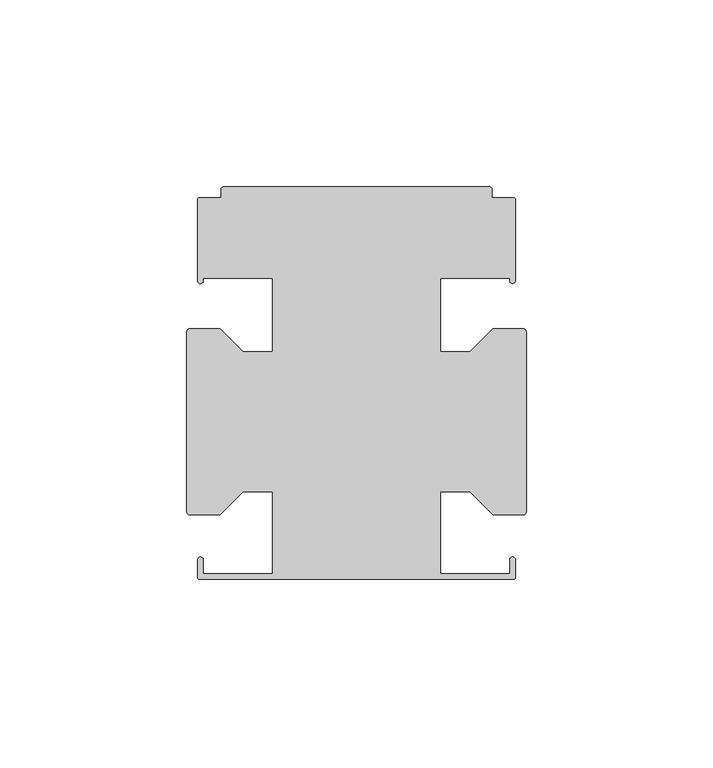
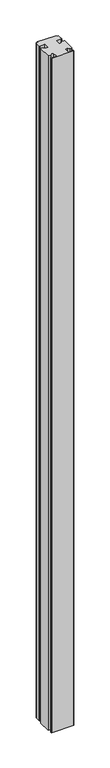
"""IFC4 building model written with IfcOpenShell, lengths in millimetres: member geometry, Прямоугольный импост : AMG-2-Профиль 105Х85 3 грани средний 2 стороны."""

from ifc_helpers import new_model, si_unit, point, frame, frame_2d, origin, place, context, project, spatial, polyline, circle_curve, trimmed, segment, composite_curve, outline, extrude, source, transform, mapped, element, save


def member_601b8065(model_context):
    return source(origin(), model_context, "Body", "SweptSolid", [
        extrude(outline(composite_curve([segment(polyline([(42.4976562, -36.8135237), (42.4976562, -41.5999999)]), True, "CONTINUOUS"), segment(trimmed(circle_curve(frame_2d((41.9976562, -41.5999999)), 0.5), [point((42.4976562, -41.5999999))], [point((41.9976562, -42.0999999))], False, "CARTESIAN"), True, "CONTINUOUS"), segment(polyline([(41.9976562, -42.0999999), (-42.0023438, -42.0999999)]), True, "CONTINUOUS"), segment(trimmed(circle_curve(frame_2d((-42.0023438, -41.5999999)), 0.5), [point((-42.0023438, -42.0999999))], [point((-42.5023438, -41.5999999))], False, "CARTESIAN"), True, "CONTINUOUS"), segment(polyline([(-42.5023438, -41.5999999), (-42.5023438, -36.8999999)]), True, "CONTINUOUS"), segment(trimmed(circle_curve(frame_2d((-41.7023438, -36.8999999)), 0.8), [point((-42.5023438, -36.8999999))], [point((-41.7023438, -36.0999999))], False, "CARTESIAN"), True, "CONTINUOUS"), segment(polyline([(-41.7023438, -36.0999999), (-41.0023438, -36.4566677), (-41.0023438, -40.5999999), (-22.5023438, -40.5999999), (-22.5023438, -18.6999999), (-30.3523438, -18.6999999), (-36.5023438, -24.8499999), (-44.6023438, -24.8499999)]), True, "CONTINUOUS"), segment(trimmed(circle_curve(frame_2d((-44.6023438, -24.0499999)), 0.8), [point((-44.6023438, -24.8499999))], [point((-45.4023438, -24.0499999))], False, "CARTESIAN"), True, "CONTINUOUS"), segment(polyline([(-45.4023438, -24.0499999), (-45.4023438, 24.0499999)]), True, "CONTINUOUS"), segment(trimmed(circle_curve(frame_2d((-44.6023438, 24.0499999)), 0.8), [point((-45.4023438, 24.0499999))], [point((-44.6023438, 24.8499999))], False, "CARTESIAN"), True, "CONTINUOUS"), segment(polyline([(-44.6023438, 24.8499999), (-36.5023438, 24.8499999), (-30.3523438, 18.6999999), (-22.5023438, 18.6999999), (-22.5023438, 38.4000001), (-41.0023438, 38.4000001), (-41.0023438, 37.2566679), (-41.7023438, 36.9000001)]), True, "CONTINUOUS"), segment(trimmed(circle_curve(frame_2d((-41.7023438, 37.7000001)), 0.8), [point((-41.7023438, 36.9000001))], [point((-42.5023438, 37.7000001))], False, "CARTESIAN"), True, "CONTINUOUS"), segment(polyline([(-42.5023438, 37.7000001), (-42.5023438, 59.4000001)]), True, "CONTINUOUS"), segment(trimmed(circle_curve(frame_2d((-42.0023438, 59.4000001)), 0.5), [point((-42.5023438, 59.4000001))], [point((-42.0023438, 59.9000001))], False, "CARTESIAN"), True, "CONTINUOUS"), segment(polyline([(-42.0023438, 59.9000001), (-36.2523438, 59.9000001), (-36.2523438, 62.3000001)]), True, "CONTINUOUS"), segment(trimmed(circle_curve(frame_2d((-35.7523438, 62.3000001)), 0.5), [point((-36.2523438, 62.3000001))], [point((-35.7523438, 62.8000001))], False, "CARTESIAN"), True, "CONTINUOUS"), segment(polyline([(-35.7523438, 62.8000001), (35.7476562, 62.8000001)]), True, "CONTINUOUS"), segment(trimmed(circle_curve(frame_2d((35.7476562, 62.3000001)), 0.5), [point((35.7476562, 62.8000001))], [point((36.2476562, 62.3000001))], False, "CARTESIAN"), True, "CONTINUOUS"), segment(polyline([(36.2476562, 62.3000001), (36.2476562, 59.9000001), (41.9976562, 59.9000001)]), True, "CONTINUOUS"), segment(trimmed(circle_curve(frame_2d((41.9976562, 59.4000001)), 0.5), [point((41.9976562, 59.9000001))], [point((42.4976562, 59.4000001))], False, "CARTESIAN"), True, "CONTINUOUS"), segment(polyline([(42.4976562, 59.4000001), (42.4976562, 37.7000001)]), True, "CONTINUOUS"), segment(trimmed(circle_curve(frame_2d((41.7023438, 37.7864763)), 0.8), [point((42.4976562, 37.7000001))], [point((41.7023438, 36.9864763))], False, "CARTESIAN"), True, "CONTINUOUS"), segment(polyline([(41.7023438, 36.9864763), (41.0023438, 37.3431441), (41.0023438, 38.4000001), (22.5023438, 38.4000001), (22.5023438, 18.6999999), (30.3523438, 18.6999999), (36.5023438, 24.8499999), (44.5976562, 24.8499999)]), True, "CONTINUOUS"), segment(trimmed(circle_curve(frame_2d((44.5976562, 24.0499999)), 0.8), [point((44.5976562, 24.8499999))], [point((45.3976562, 24.0499999))], False, "CARTESIAN"), True, "CONTINUOUS"), segment(polyline([(45.3976562, 24.0499999), (45.3976562, -24.0499999)]), True, "CONTINUOUS"), segment(trimmed(circle_curve(frame_2d((44.5976562, -24.0499999)), 0.8), [point((45.3976562, -24.0499999))], [point((44.5976562, -24.8499999))], False, "CARTESIAN"), True, "CONTINUOUS"), segment(polyline([(44.5976562, -24.8499999), (36.5023438, -24.8499999), (30.3523438, -18.6999999), (22.5023438, -18.6999999), (22.5023438, -40.5999999), (41.0023438, -40.5999999), (41.0023438, -36.4566677), (41.7023438, -36.0999999)]), True, "CONTINUOUS"), segment(trimmed(circle_curve(frame_2d((41.7023438, -36.8999999)), 0.8), [point((41.7023438, -36.0999999))], [point((42.4976562, -36.8135237))], False, "CARTESIAN"), True, "CONTINUOUS")], self_intersect=False)), frame((0.0, 0.0, -2717.8), z_axis=(0.0, 0.0, 1.0), x_axis=(1.0, 0.0, 0.0)), (0.0, 0.0, 1.0), 2717.8),
    ])


if __name__ == "__main__":
    model = new_model("IFC4")
    model_context = context("Model", 3, world=origin())
    ifc_project = project(units=[si_unit("LENGTHUNIT", "METRE", prefix="MILLI")], contexts=[model_context])
    site = spatial("IfcSite", under=ifc_project)
    building = spatial("IfcBuilding", under=site)
    placement = place(None, origin())
    member_shape = member_601b8065(model_context)
    element("IfcMember", 1, ObjectType="Прямоугольный импост : AMG-2-Профиль 105Х85 3 грани средний 2 стороны", at=placement, inside=building, context=model_context, shape_type="MappedRepresentation", body=[
        mapped(member_shape, transform((0.0, 0.0, 0.0), x_axis=(1.0, 0.0, 0.0), y_axis=(0.0, 1.0, 0.0), z_axis=(0.0, 0.0, 1.0))),
    ])
    save(model, "model.ifc")
